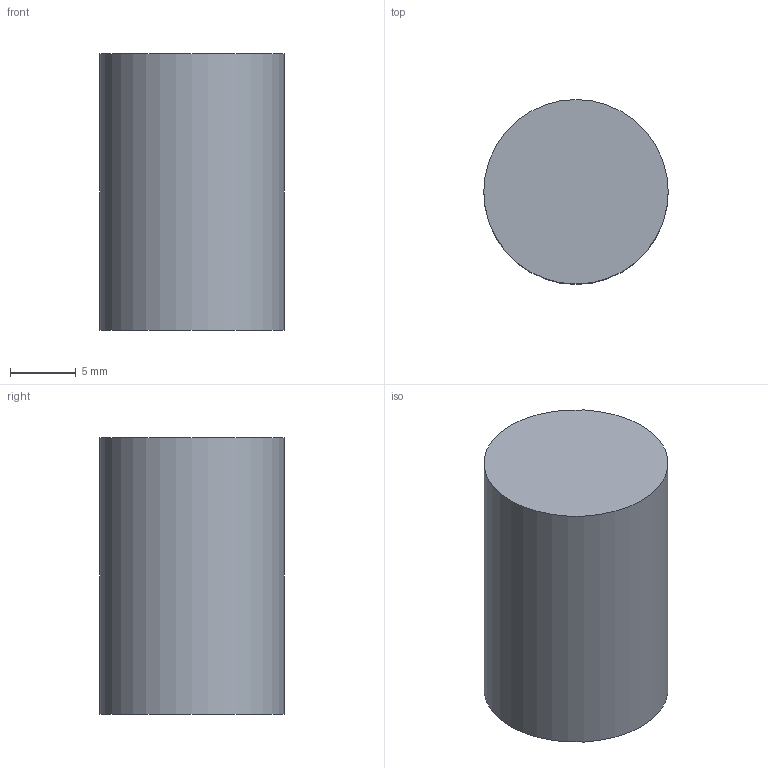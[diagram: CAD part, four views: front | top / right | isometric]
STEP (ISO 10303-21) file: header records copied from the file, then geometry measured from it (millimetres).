
FILE_DESCRIPTION(('Open CASCADE Model'),'2;1');
FILE_NAME('Open CASCADE Shape Model','2026-10-04T02:31:45',('Author'),( 'Open CASCADE'),'Open CASCADE STEP processor 8.0','Open CASCADE 8.0' ,'Unknown');
FILE_SCHEMA(('AUTOMOTIVE_DESIGN { 1 0 10303 214 1 1 1 1 }'));
Length unit declared in the file: millimetre
Products named in the file (1): Open CASCADE STEP translator 8.0 373
Bounding box: 14 x 14 x 21 mm (x, y, z)
Volume: 3232.7 mm3; surface area: 1231.5 mm2
Topology: 1 solids, 1 shells, 3 faces, 3 edges, 2 vertices
Faces by surface type: plane 2, cylinder 1
Full cylindrical faces by diameter (mm): 14 x1
Entity records: 108 total; most frequent: DIRECTION 19, CARTESIAN_POINT 15, AXIS2_PLACEMENT_3D 6, ORIENTED_EDGE 6, PCURVE 6, DEFINITIONAL_REPRESENTATION 6, LINE 5, VECTOR 5
